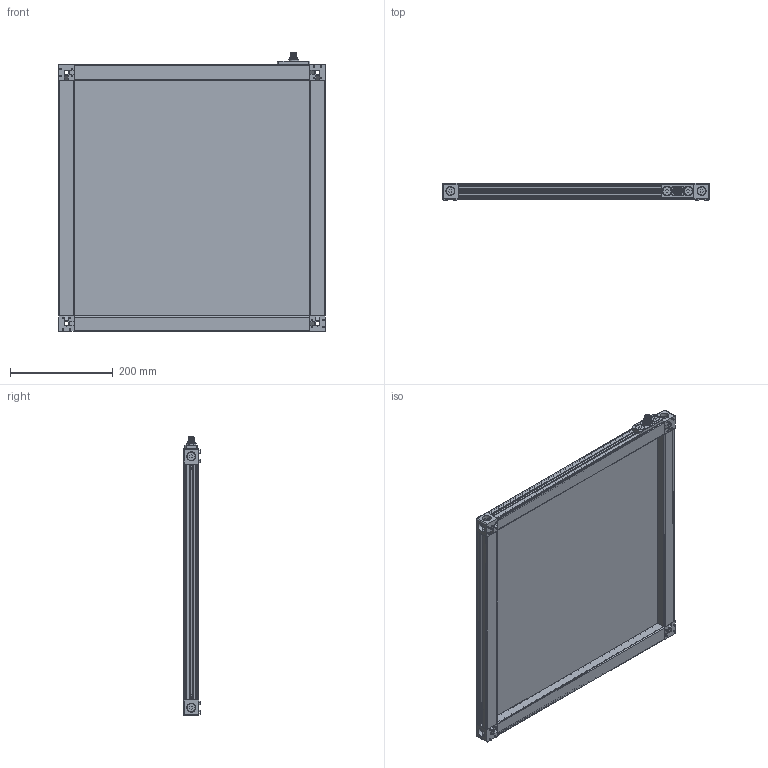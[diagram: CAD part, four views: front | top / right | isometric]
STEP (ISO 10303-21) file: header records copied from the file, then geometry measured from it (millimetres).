
FILE_DESCRIPTION (( 'STEP AP214' ), '1' );
FILE_NAME ('LLPX-450x450.STEP', '2016-04-22T19:11:50', ( '' ), ( '' ), 'SwSTEP 2.0', 'SolidWorks 2015', '' );
FILE_SCHEMA (( 'AUTOMOTIVE_DESIGN' ));
Length unit declared in the file: inch
Products named in the file (14): PLATE-00557-01-R1SLDPRT_459x459; Screws_FB08.0-015; End Caps; EXT-00557-01-R1_459; LLPX-450x450; Input Assembly; M12 Nut; Screw holder; Screws -- short_FB08.0-015; Input Mounting Plate_A; M12_Male; EXT-00557-01-R1_459-DVR; PLATE-00557-03-R1_459x459; PLATE-00557-02-R1_459x459
Assembly tree (27 placements, depth 3):
  LLPX-450x450
    EXT-00557-01-R1_459  x3
    End Caps  x4
    Screws_FB08.0-015  x8
    PLATE-00557-01-R1SLDPRT_459x459
    PLATE-00557-02-R1_459x459
    PLATE-00557-03-R1_459x459
    EXT-00557-01-R1_459-DVR
    Input Assembly
      M12_Male
      Input Mounting Plate_A
      Screws -- short_FB08.0-015  x2
      Screw holder  x2
      M12 Nut
Bounding box: 519 x 33 x 542.47 mm (x, y, z)
Volume: 3022208.2 mm3; surface area: 2054605.5 mm2
Topology: 26 solids, 27 shells, 1478 faces, 3970 edges, 2592 vertices
Faces by surface type: plane 652, cylinder 640, cone 84, bspline 70, sphere 28, torus 4
Entity records: 49626 total; most frequent: CARTESIAN_POINT 25706, ORIENTED_EDGE 4482, DIRECTION 4141, EDGE_CURVE 2241, VERTEX_POINT 1474, AXIS2_PLACEMENT_3D 1445, LINE 1251, VECTOR 1251
